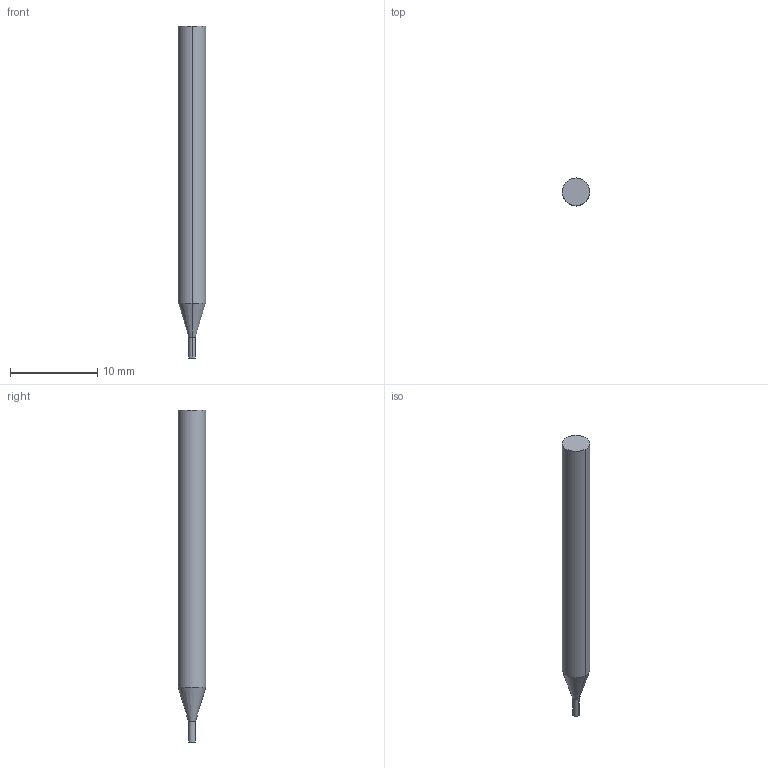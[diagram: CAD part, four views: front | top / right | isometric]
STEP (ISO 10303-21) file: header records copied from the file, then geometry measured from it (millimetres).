
FILE_DESCRIPTION((' '),'2;1');
FILE_NAME( '3MVR0312AH.stp', '2026-01-21T19:04:59', (' '), ('--- Datakit www.datakit.com---'), ' Datakit CrossCadWare V2025.4 Sep 19 2025', 'Mastercam 2027', ' ');
FILE_SCHEMA(('AUTOMOTIVE_DESIGN { 1 0 10303 214 1 1 1 1 }'));
Length unit declared in the file: inch
Products named in the file (1): 3MVR0312AH
Bounding box: 3.17 x 3.17 x 38.1 mm (x, y, z)
Volume: 266.6 mm3; surface area: 357.1 mm2
Topology: 1 solids, 1 shells, 8 faces, 14 edges, 8 vertices
Faces by surface type: cylinder 4, plane 2, cone 2
Entity records: 264 total; most frequent: DIRECTION 48, CARTESIAN_POINT 35, ORIENTED_EDGE 28, AXIS2_PLACEMENT_3D 21, EDGE_CURVE 14, VERTEX_POINT 8, CIRCLE 8, EDGE_LOOP 8
